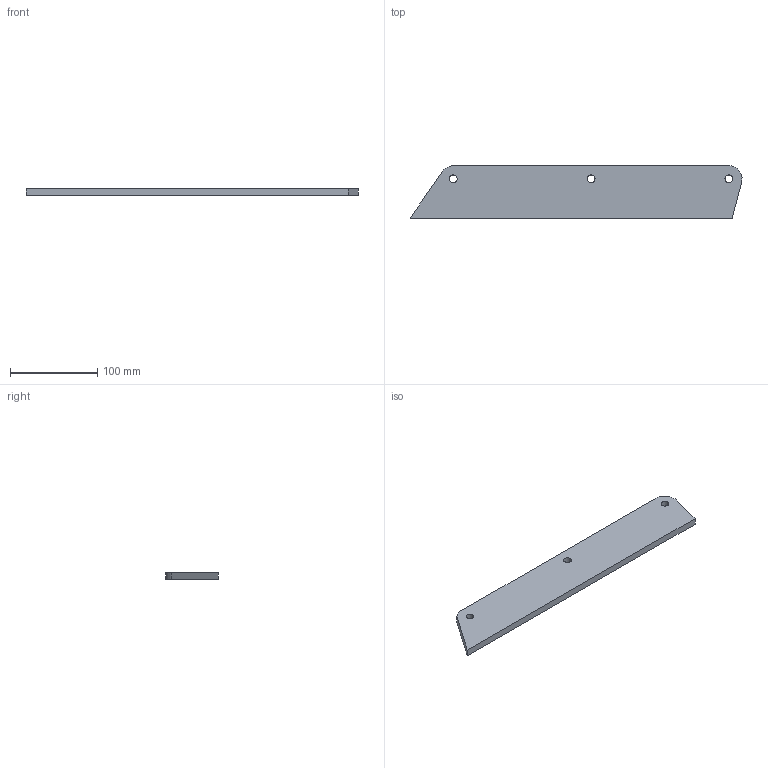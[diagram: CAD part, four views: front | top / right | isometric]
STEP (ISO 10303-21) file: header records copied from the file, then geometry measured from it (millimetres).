
FILE_DESCRIPTION(/* description */ (''),/* implementation_level */ '2;1');
FILE_NAME(/* name */ 'Pos135-Plaatwerk D= 8-S235JRG2-3st',/* time_stamp */ '2024-08-06T13:37:44+02:00',/* author */ (''),/* organization */ (''),/* preprocessor_version */ 'ST-DEVELOPER v16.5',/* originating_system */ 'HiCAD 2024 2901.2 Build 361',/* authorisation */ '');
FILE_SCHEMA (('AUTOMOTIVE_DESIGN { 1 0 10303 214 1 1 1 1 }'));
Length unit declared in the file: millimetre
Products named in the file (1): Pos135-Plaatwerk D= 8-S235JRG2-3st
Bounding box: 379.5 x 60 x 8 mm (x, y, z)
Volume: 168251.3 mm3; surface area: 49404.7 mm2
Topology: 1 solids, 1 shells, 11 faces, 30 edges, 21 vertices
Faces by surface type: plane 6, cylinder 5
Full cylindrical faces by diameter (mm): 9 x3
Entity records: 586 total; most frequent: DIRECTION 56, CARTESIAN_POINT 53, PRESENTATION_STYLE_ASSIGNMENT 49, COLOUR_RGB 49, DRAUGHTING_PRE_DEFINED_CURVE_FONT 48, CURVE_STYLE 48, OVER_RIDING_STYLED_ITEM 48, ORIENTED_EDGE 48
